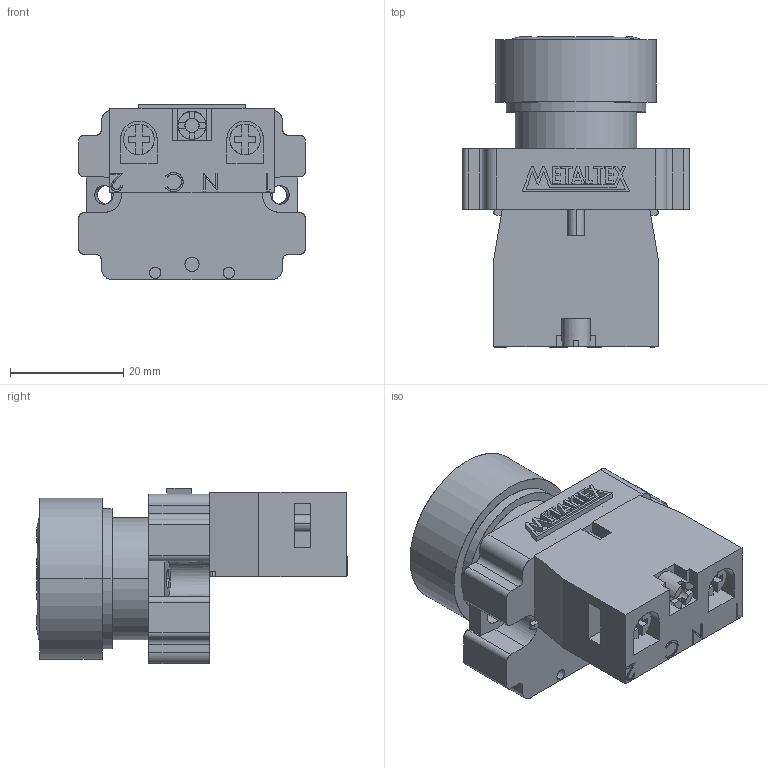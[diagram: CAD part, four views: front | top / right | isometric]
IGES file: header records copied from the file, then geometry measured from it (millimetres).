
Start section: SolidWorks IGES file using analytic representation for surfaces
Global section: file name: D:\X - Arquivos\PROEX\Empresas\P11 - METALTEX\01 - Produtos\IGES\Primeira remessa\M20AFR-G-1A.IGS; native system: SolidWorks 2012; preprocessor: SolidWorks 2012; author: Usuario; date: 180117.115046; units: millimetre
Bounding box: 40 x 54.77 x 30.9 mm (x, y, z)
Surface area: 11167.9 mm2 (no closed solid volume)
Topology: 0 solids, 0 shells, 343 faces, 3780 edges, 3778 vertices
Faces by surface type: bspline 274, revolution 69
